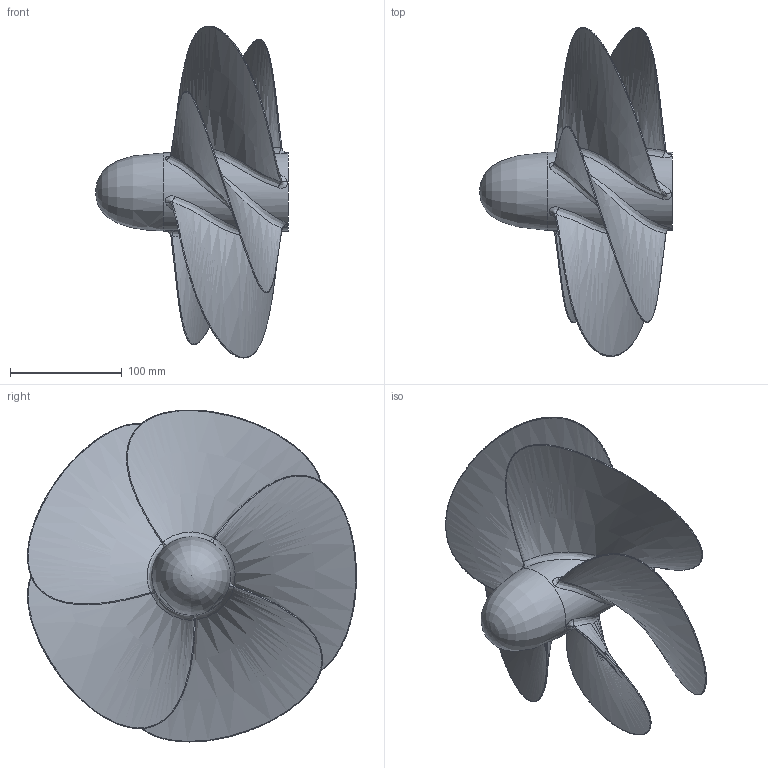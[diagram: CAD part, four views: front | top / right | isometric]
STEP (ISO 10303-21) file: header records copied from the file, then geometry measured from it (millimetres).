
FILE_DESCRIPTION((''),'2;1');
FILE_NAME('C:\temp\Schiffsschraube.stp','2012-05-16T18:23:34',('Udo.Huebner'),(''),'Autodesk Inventor 2013','Autodesk Inventor 2013','');
FILE_SCHEMA(('AUTOMOTIVE_DESIGN { 1 0 10303 214 1 1 1 1 }'));
Length unit declared in the file: millimetre
Products named in the file (1): Schiffsschraube
Bounding box: 172.62 x 294.72 x 297.58 mm (x, y, z)
Volume: 1090747.7 mm3; surface area: 238188.1 mm2
Topology: 1 solids, 1 shells, 38 faces, 79 edges, 46 vertices
Faces by surface type: bspline 35, revolution 1, plane 1, cylinder 1
Full cylindrical faces by diameter (mm): 70 x1
Entity records: 11206 total; most frequent: CARTESIAN_POINT 10591, ORIENTED_EDGE 148, EDGE_CURVE 74, DIRECTION 53, B_SPLINE_CURVE_WITH_KNOTS 50, VERTEX_POINT 44, EDGE_LOOP 44, FACE_OUTER_BOUND 38
